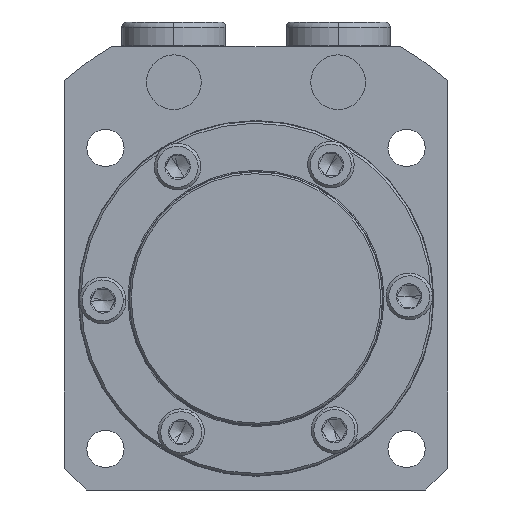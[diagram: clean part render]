
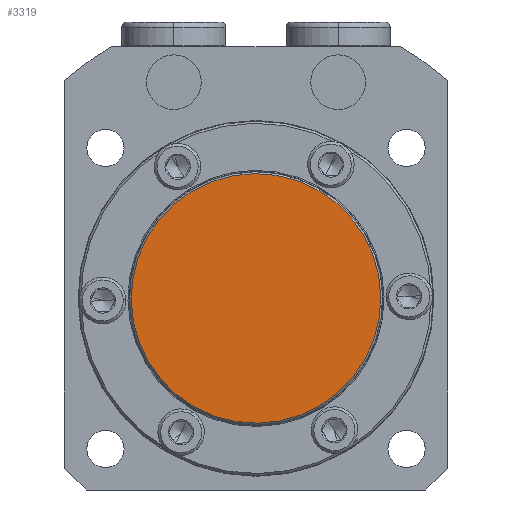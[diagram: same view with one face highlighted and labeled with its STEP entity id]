
A CAD part, front view. The second image highlights one B-rep face of the part: STEP entity #3319.
In plain terms, the highlighted planar face has unit normal (0, -1, 0).
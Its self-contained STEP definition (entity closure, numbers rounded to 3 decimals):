
#225 = EDGE_LOOP ( 'NONE', ( #6358, #6359 ) ) ;
#504 = CIRCLE ( 'NONE', #509, 22.8 ) ;
#509 = AXIS2_PLACEMENT_3D ( 'NONE', #2811, #2812, #2813 ) ;
#600 = CIRCLE ( 'NONE', #603, 22.8 ) ;
#603 = AXIS2_PLACEMENT_3D ( 'NONE', #4503, #4504, #4505 ) ;
#2811 = CARTESIAN_POINT ( 'NONE',  ( 0., -10.5, 0. ) ) ;
#2812 = DIRECTION ( 'NONE',  ( 0., -1., 0. ) ) ;
#2813 = DIRECTION ( 'NONE',  ( 0., 0., -1. ) ) ;
#3030 = EDGE_CURVE ( 'NONE', #3124, #3127, #504, .T. ) ;
#3088 = EDGE_CURVE ( 'NONE', #3127, #3124, #600, .T. ) ;
#3124 = VERTEX_POINT ( 'NONE', #4711 ) ;
#3127 = VERTEX_POINT ( 'NONE', #4717 ) ;
#3319 = ADVANCED_FACE ( 'NONE', ( #5253 ), #5255, .T. ) ;
#4178 = AXIS2_PLACEMENT_3D ( 'NONE', #5202, #5259, #5261 ) ;
#4503 = CARTESIAN_POINT ( 'NONE',  ( 0., -10.5, 0. ) ) ;
#4504 = DIRECTION ( 'NONE',  ( 0., -1., 0. ) ) ;
#4505 = DIRECTION ( 'NONE',  ( 0., 0., -1. ) ) ;
#4711 = CARTESIAN_POINT ( 'NONE',  ( 0., -10.5, -22.8 ) ) ;
#4717 = CARTESIAN_POINT ( 'NONE',  ( 0., -10.5, 22.8 ) ) ;
#5202 = CARTESIAN_POINT ( 'NONE',  ( 0., -10.5, 0. ) ) ;
#5253 = FACE_OUTER_BOUND ( 'NONE', #225, .T. ) ;
#5255 = PLANE ( 'NONE',  #4178 ) ;
#5259 = DIRECTION ( 'NONE',  ( 0., -1., 0. ) ) ;
#5261 = DIRECTION ( 'NONE',  ( 0., 0., -1. ) ) ;
#6358 = ORIENTED_EDGE ( 'NONE', *, *, #3088, .T. ) ;
#6359 = ORIENTED_EDGE ( 'NONE', *, *, #3030, .T. ) ;
